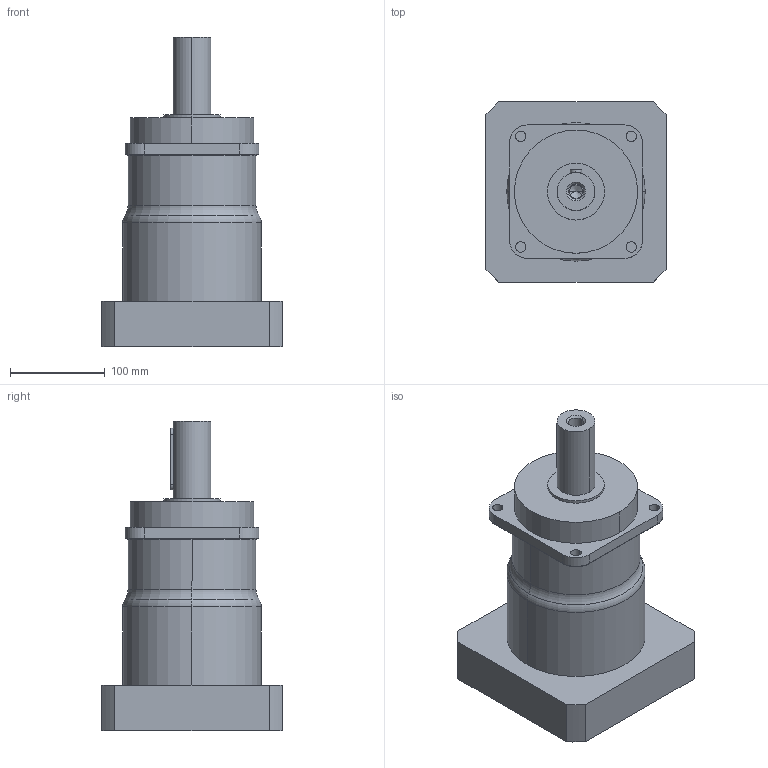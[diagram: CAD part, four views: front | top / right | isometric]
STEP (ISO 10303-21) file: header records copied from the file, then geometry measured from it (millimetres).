
FILE_DESCRIPTION (( 'STEP AP203' ), '1' );
FILE_NAME ('PN142L2-i-P2-S2-38-80-180-215-M12.STEP', '2016-01-05T03:36:31', ( 'User' ), ( 'china' ), 'SwSTEP 2.0', 'SolidWorks 2014', '' );
FILE_SCHEMA (( 'CONFIG_CONTROL_DESIGN' ));
Length unit declared in the file: millimetre
Products named in the file (1): PN142L2-i-P2-S2-38-80-180-215-M12
Bounding box: 190 x 190 x 326.5 mm (x, y, z)
Volume: 4543323.7 mm3; surface area: 232297.9 mm2
Topology: 1 solids, 1 shells, 112 faces, 257 edges, 154 vertices
Faces by surface type: cylinder 57, plane 25, bspline 14, cone 12, torus 4
Entity records: 3921 total; most frequent: CARTESIAN_POINT 1382, DIRECTION 536, ORIENTED_EDGE 494, EDGE_CURVE 247, AXIS2_PLACEMENT_3D 218, VERTEX_POINT 154, EDGE_LOOP 137, CIRCLE 119
